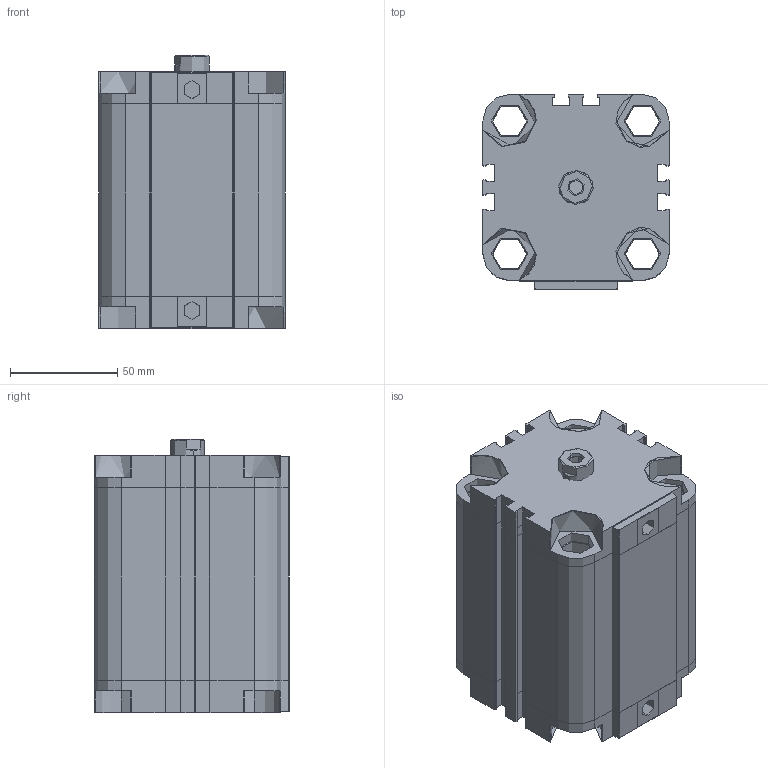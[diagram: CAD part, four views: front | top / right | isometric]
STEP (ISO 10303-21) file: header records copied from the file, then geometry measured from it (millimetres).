
FILE_DESCRIPTION (( 'STEP AP203' ), '1' );
FILE_NAME ('AEVU63X60-S-CYLINDER.STEP', '2015-06-06T08:55:59', ( 'user' ), ( '' ), 'SwSTEP 2.0', 'SolidWorks 2013', '' );
FILE_SCHEMA (( 'CONFIG_CONTROL_DESIGN' ));
Length unit declared in the file: millimetre
Products named in the file (8): AEVU 63-S ARKA KAPAK; AEVU 63X60-S BORU; AEVU 63-S 烰 KAPAK; AEVU 63-S ORTA PÝSTON; AEVU 63X60-S M尳; AEVU 63X60-S  YAY; AEVU63X60-S-CYLINDER
Assembly tree (8 placements, depth 2):
  AEVU63X60-S-CYLINDER
    AEVU 63-S ARKA KAPAK
    AEVU 63X60-S BORU
    AEVU 63-S 烰 KAPAK
    AEVU 63-S ORTA PÝSTON
    AEVU 63X60-S M尳
    AEVU 63X60-S  YAY  x2
    AEVU 63X60-S  YAY
Bounding box: 87 x 91.1 x 127.5 mm (x, y, z)
Volume: 531916.9 mm3; surface area: 159339.9 mm2
Topology: 9 solids, 9 shells, 600 faces, 1607 edges, 1058 vertices
Faces by surface type: cylinder 281, plane 255, cone 58, bspline 4, torus 2
Entity records: 23349 total; most frequent: CARTESIAN_POINT 7023, DIRECTION 3375, ORIENTED_EDGE 3186, EDGE_CURVE 1593, AXIS2_PLACEMENT_3D 1228, VERTEX_POINT 1046, LINE 919, VECTOR 919
